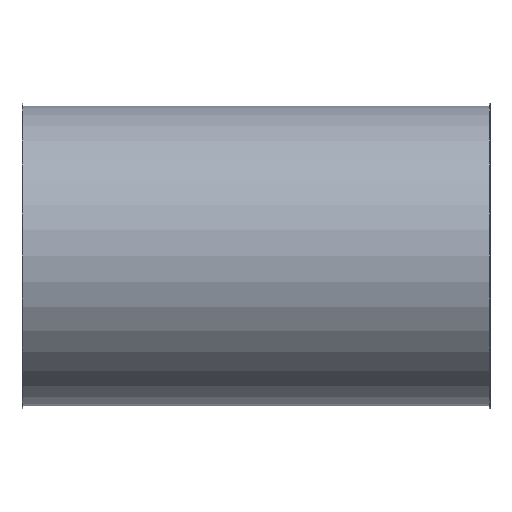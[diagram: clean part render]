
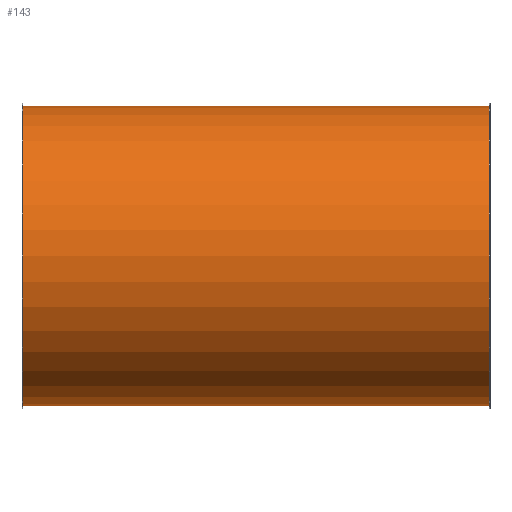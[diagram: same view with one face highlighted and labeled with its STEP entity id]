
A CAD part, front view. The second image highlights one B-rep face of the part: STEP entity #143.
In plain terms, the highlighted cylindrical face has radius 316 mm (diameter 632 mm), a full revolution.
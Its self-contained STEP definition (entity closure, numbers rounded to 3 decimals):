
#112=CARTESIAN_POINT('',(952.119,2.817,0.0));
#113=VERTEX_POINT('',#112);
#114=CARTESIAN_POINT('',(952.119,318.817,0.0));
#115=DIRECTION('',(-1.0,0.0,0.0));
#116=DIRECTION('',(0.0,-1.0,0.0));
#117=AXIS2_PLACEMENT_3D('',#114,#115,#116);
#118=CIRCLE('',#117,316.);
#119=EDGE_CURVE('',#113,#113,#118,.T.);
#124=CARTESIAN_POINT('',(461.119,318.817,0.0));
#125=DIRECTION('',(-1.0,0.,0.0));
#126=DIRECTION('',(0.0,-1.0,0.0));
#127=AXIS2_PLACEMENT_3D('',#124,#125,#126);
#128=CYLINDRICAL_SURFACE('',#127,316.);
#129=CARTESIAN_POINT('',(-29.881,2.817,0.0));
#130=VERTEX_POINT('',#129);
#131=CARTESIAN_POINT('',(-29.881,318.817,0.0));
#132=DIRECTION('',(-1.0,0.0,0.0));
#133=DIRECTION('',(0.0,-1.0,0.0));
#134=AXIS2_PLACEMENT_3D('',#131,#132,#133);
#135=CIRCLE('',#134,316.0);
#136=EDGE_CURVE('',#130,#130,#135,.T.);
#137=ORIENTED_EDGE('',*,*,#136,.F.);
#138=EDGE_LOOP('',(#137));
#139=FACE_OUTER_BOUND('',#138,.T.);
#140=ORIENTED_EDGE('',*,*,#119,.T.);
#141=EDGE_LOOP('',(#140));
#142=FACE_BOUND('',#141,.T.);
#143=ADVANCED_FACE('',(#139,#142),#128,.T.);
